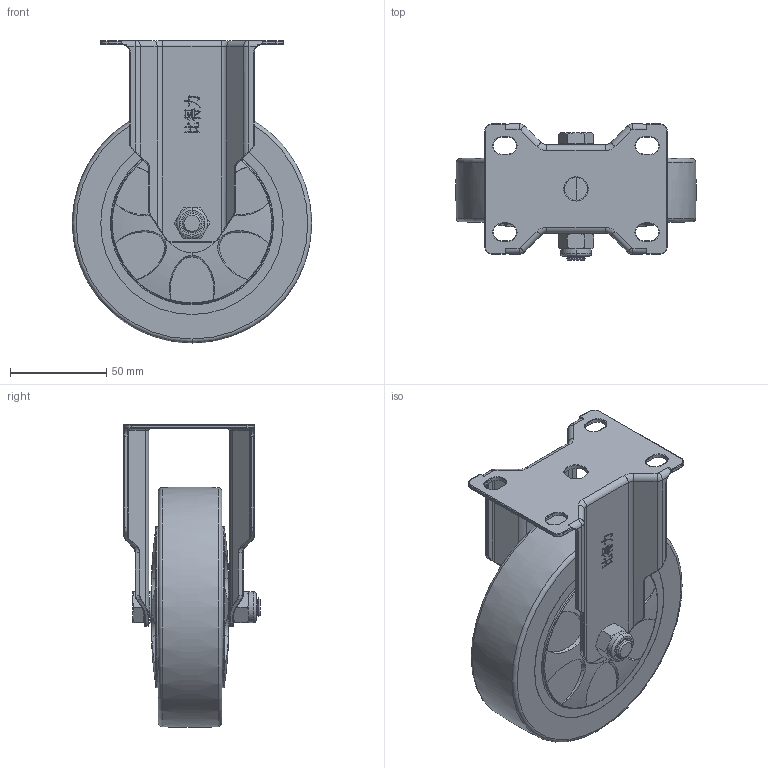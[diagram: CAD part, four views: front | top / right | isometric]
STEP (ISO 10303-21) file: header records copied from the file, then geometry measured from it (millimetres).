
FILE_DESCRIPTION (( 'STEP AP203' ), '1' );
FILE_NAME ('5渡笢婥PU隅砃謫.STEP', '2023-03-06T08:58:42', ( 'amidn' ), ( '' ), 'SwSTEP 2.0', 'SolidWorks 2018', '' );
FILE_SCHEMA (( 'CONFIG_CONTROL_DESIGN' ));
Length unit declared in the file: millimetre
Products named in the file (6): 5渡笢婥PU隅砃謫; 5______PU__.STEP; hex bolt gradeab_din_DIN EN 24014 - M10 x 60 x 26-S.STEP; prevailing trq nut style 1 insert fine_din_DIN EN ISO 10512 - M10x1.25 - S.STEP; 5寸中载PU-橡胶定向轮.STEP; 5______PU-____________.STEP
Assembly tree (5 placements, depth 3):
  5渡笢婥PU隅砃謫
    5寸中载PU-橡胶定向轮.STEP
      5______PU-____________.STEP
      5______PU__.STEP
      hex bolt gradeab_din_DIN EN 24014 - M10 x 60 x 26-S.STEP
      prevailing trq nut style 1 insert fine_din_DIN EN ISO 10512 - M10x1.25 - S.STEP
Bounding box: 124.95 x 71 x 157.47 mm (x, y, z)
Volume: 466011.8 mm3; surface area: 81010 mm2
Topology: 4 solids, 4 shells, 796 faces, 1934 edges, 1170 vertices
Faces by surface type: cylinder 242, plane 210, cone 170, bspline 90, torus 80, sphere 4
Entity records: 29409 total; most frequent: CARTESIAN_POINT 10462, DIRECTION 3865, ORIENTED_EDGE 3854, EDGE_CURVE 1927, AXIS2_PLACEMENT_3D 1487, VERTEX_POINT 1170, VECTOR 891, LINE 891
